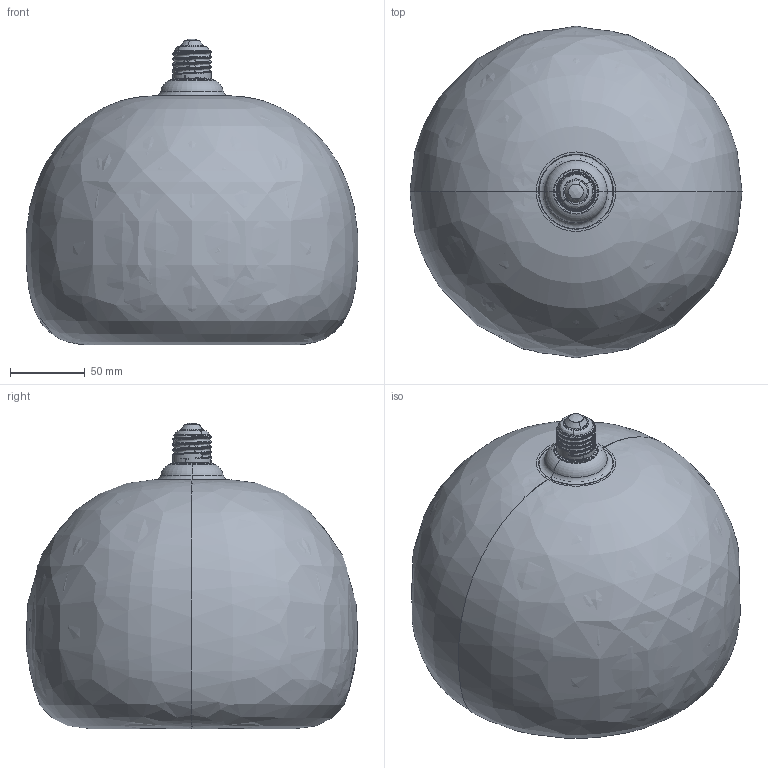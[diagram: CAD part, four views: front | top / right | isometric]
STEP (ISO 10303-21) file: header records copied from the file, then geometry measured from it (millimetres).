
FILE_DESCRIPTION (( 'STEP AP214' ), '1' );
FILE_NAME ('B220AM.STEP', '2023-07-20T15:05:49', ( '' ), ( '' ), 'SwSTEP 2.0', 'SolidWorks 2020', '' );
FILE_SCHEMA (( 'AUTOMOTIVE_DESIGN' ));
Length unit declared in the file: millimetre
Products named in the file (6): Orb LED 20220505; B220AM; 125DP 20220505; 125DT 20220505; E27DT 20220505; Orb 20220505
Assembly tree (5 placements, depth 2):
  B220AM
    Orb 20220505
    Orb LED 20220505
    125DT 20220505
    125DP 20220505
    E27DT 20220505
Bounding box: 222.7 x 222.49 x 204.84 mm (x, y, z)
Volume: 559434.6 mm3; surface area: 1115699.8 mm2
Topology: 8 solids, 8 shells, 342 faces, 865 edges, 541 vertices
Faces by surface type: bspline 138, cylinder 88, torus 64, plane 38, cone 14
Entity records: 63737 total; most frequent: CARTESIAN_POINT 55899, ORIENTED_EDGE 1730, DIRECTION 1273, EDGE_CURVE 865, AXIS2_PLACEMENT_3D 569, VERTEX_POINT 541, CIRCLE 357, EDGE_LOOP 354
